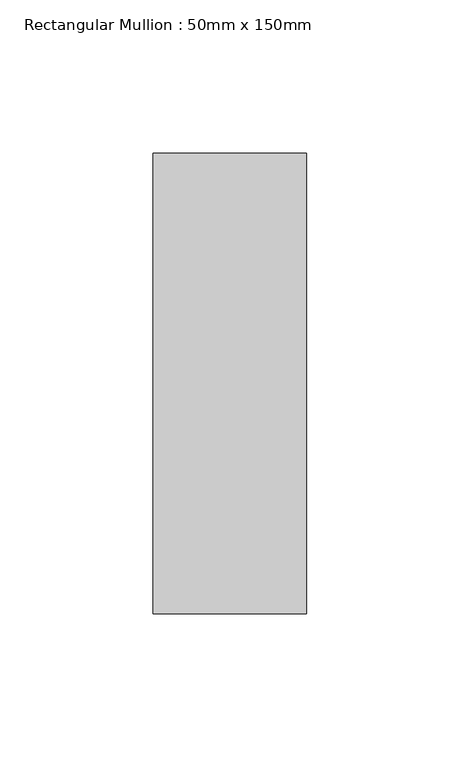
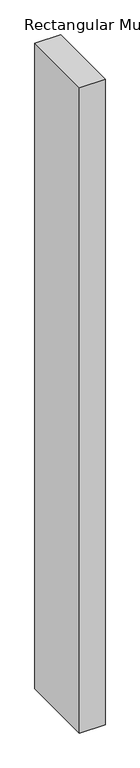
"""IFC4 building model written with IfcOpenShell, lengths in millimetres: member geometry, Rectangular Mullion : 50mm x 150mm."""

from ifc_helpers import new_model, si_unit, frame, origin, place, context, project, spatial, polyline, outline, extrude, source, transform, mapped, element, save


def rectangular_mullion_50mm_x_150mm_ba376b5f(model_context):
    return source(origin(), model_context, "Body", "SweptSolid", [
        extrude(outline(polyline([(25.0, 75.0), (25.0, -75.0), (-25.0, -75.0), (-25.0, 75.0), (25.0, 75.0)])), frame((0.0, 0.0, -1329.6608805), z_axis=(0.0, 0.0, 1.0), x_axis=(1.0, 0.0, 0.0)), (0.0, 0.0, 1.0), 1329.6608805),
    ])


if __name__ == "__main__":
    model = new_model("IFC4")
    model_context = context("Model", 3, world=origin())
    ifc_project = project(units=[si_unit("LENGTHUNIT", "METRE", prefix="MILLI")], contexts=[model_context])
    site = spatial("IfcSite", under=ifc_project)
    building = spatial("IfcBuilding", under=site)
    placement = place(None, origin())
    rectangular_mullion_50mm_x_150mm_shape = rectangular_mullion_50mm_x_150mm_ba376b5f(model_context)
    element("IfcMember", 1, ObjectType="Rectangular Mullion : 50mm x 150mm", at=placement, inside=building, context=model_context, shape_type="MappedRepresentation", body=[
        mapped(rectangular_mullion_50mm_x_150mm_shape, transform((0.0, 0.0, 0.0), x_axis=(1.0, 0.0, 0.0), y_axis=(0.0, 1.0, 0.0), z_axis=(0.0, 0.0, 1.0))),
    ])
    save(model, "model.ifc")
